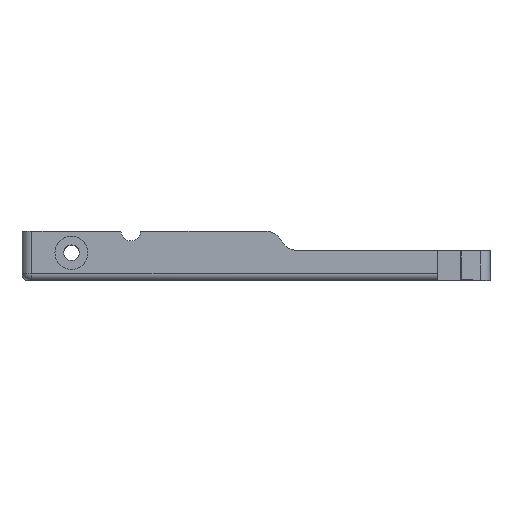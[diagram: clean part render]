
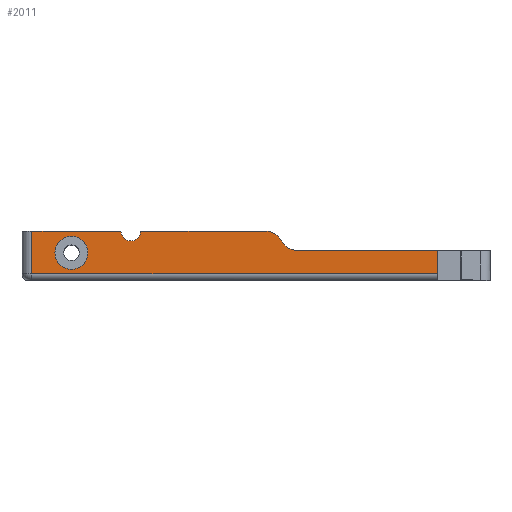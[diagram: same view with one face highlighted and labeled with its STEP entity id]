
A CAD part, top view. The second image highlights one B-rep face of the part: STEP entity #2011.
In plain terms, the highlighted planar face has unit normal (0, 0, 1).
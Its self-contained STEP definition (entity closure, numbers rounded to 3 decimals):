
#13 = VERTEX_POINT ( 'NONE', #432 ) ;
#75 = LINE ( 'NONE', #3900, #3158 ) ;
#153 = VERTEX_POINT ( 'NONE', #321 ) ;
#234 = CARTESIAN_POINT ( 'NONE',  ( -25.651, 4.2, 20.817 ) ) ;
#321 = CARTESIAN_POINT ( 'NONE',  ( -31.651, 1., 20.817 ) ) ;
#352 = EDGE_LOOP ( 'NONE', ( #981, #4034, #2841, #2585, #966, #2641, #2122, #1133, #678 ) ) ;
#362 = VERTEX_POINT ( 'NONE', #1739 ) ;
#430 = LINE ( 'NONE', #3802, #2029 ) ;
#432 = CARTESIAN_POINT ( 'NONE',  ( -23.151, 4.2, 20.817 ) ) ;
#480 = EDGE_CURVE ( 'NONE', #2147, #13, #3694, .T. ) ;
#570 = CARTESIAN_POINT ( 'NONE',  ( 6.249, 6., 20.817 ) ) ;
#599 = ORIENTED_EDGE ( 'NONE', *, *, #480, .F. ) ;
#663 = VERTEX_POINT ( 'NONE', #1589 ) ;
#678 = ORIENTED_EDGE ( 'NONE', *, *, #703, .F. ) ;
#703 = EDGE_CURVE ( 'NONE', #663, #735, #765, .T. ) ;
#735 = VERTEX_POINT ( 'NONE', #1563 ) ;
#765 = LINE ( 'NONE', #815, #1966 ) ;
#779 = CIRCLE ( 'NONE', #4810, 3.003 ) ;
#801 = CARTESIAN_POINT ( 'NONE',  ( 8.849, 7.503, 20.817 ) ) ;
#815 = CARTESIAN_POINT ( 'NONE',  ( 29.849, 7.5, 20.817 ) ) ;
#853 = CIRCLE ( 'NONE', #4254, 1.5 ) ;
#882 = VERTEX_POINT ( 'NONE', #3493 ) ;
#966 = ORIENTED_EDGE ( 'NONE', *, *, #3491, .T. ) ;
#981 = ORIENTED_EDGE ( 'NONE', *, *, #4423, .T. ) ;
#1009 = DIRECTION ( 'NONE',  ( 0., 0., 1. ) ) ;
#1054 = EDGE_CURVE ( 'NONE', #882, #1196, #430, .T. ) ;
#1087 = VECTOR ( 'NONE', #1429, 1000. ) ;
#1110 = CARTESIAN_POINT ( 'NONE',  ( -31.651, 7.5, 20.817 ) ) ;
#1133 = ORIENTED_EDGE ( 'NONE', *, *, #2468, .T. ) ;
#1137 = EDGE_CURVE ( 'NONE', #2020, #3226, #1160, .T. ) ;
#1160 = CIRCLE ( 'NONE', #3220, 3.003 ) ;
#1196 = VERTEX_POINT ( 'NONE', #3929 ) ;
#1227 = DIRECTION ( 'NONE',  ( 1., 0., 0. ) ) ;
#1231 = DIRECTION ( 'NONE',  ( 1., 0., 0. ) ) ;
#1337 = DIRECTION ( 'NONE',  ( 0., 0., -1. ) ) ;
#1429 = DIRECTION ( 'NONE',  ( 0., -1., 0. ) ) ;
#1563 = CARTESIAN_POINT ( 'NONE',  ( 29.849, 1., 20.817 ) ) ;
#1589 = CARTESIAN_POINT ( 'NONE',  ( 29.849, 4.5, 20.817 ) ) ;
#1666 = DIRECTION ( 'NONE',  ( 1., 0., 0. ) ) ;
#1739 = CARTESIAN_POINT ( 'NONE',  ( -15.151, 7.5, 20.817 ) ) ;
#1755 = CARTESIAN_POINT ( 'NONE',  ( -28.151, 4.2, 20.817 ) ) ;
#1818 = CARTESIAN_POINT ( 'NONE',  ( 29.849, 4.5, 20.817 ) ) ;
#1855 = VERTEX_POINT ( 'NONE', #3792 ) ;
#1934 = EDGE_LOOP ( 'NONE', ( #4829, #599 ) ) ;
#1966 = VECTOR ( 'NONE', #2258, 1000. ) ;
#1991 = DIRECTION ( 'NONE',  ( -1., 0., 0. ) ) ;
#2011 = ADVANCED_FACE ( 'NONE', ( #2388, #3890 ), #3223, .F. ) ;
#2020 = VERTEX_POINT ( 'NONE', #2102 ) ;
#2029 = VECTOR ( 'NONE', #1231, 1000. ) ;
#2102 = CARTESIAN_POINT ( 'NONE',  ( 8.849, 4.5, 20.817 ) ) ;
#2122 = ORIENTED_EDGE ( 'NONE', *, *, #3791, .T. ) ;
#2147 = VERTEX_POINT ( 'NONE', #1755 ) ;
#2258 = DIRECTION ( 'NONE',  ( 0., -1., 0. ) ) ;
#2388 = FACE_BOUND ( 'NONE', #1934, .T. ) ;
#2417 = DIRECTION ( 'NONE',  ( 0., 0., 1. ) ) ;
#2467 = CARTESIAN_POINT ( 'NONE',  ( 3.649, 4.497, 20.817 ) ) ;
#2468 = EDGE_CURVE ( 'NONE', #153, #735, #3646, .T. ) ;
#2585 = ORIENTED_EDGE ( 'NONE', *, *, #3094, .F. ) ;
#2641 = ORIENTED_EDGE ( 'NONE', *, *, #1054, .F. ) ;
#2735 = DIRECTION ( 'NONE',  ( 0., 0., -1. ) ) ;
#2841 = ORIENTED_EDGE ( 'NONE', *, *, #3282, .T. ) ;
#3011 = DIRECTION ( 'NONE',  ( -1., 0., 0. ) ) ;
#3094 = EDGE_CURVE ( 'NONE', #362, #1855, #75, .T. ) ;
#3158 = VECTOR ( 'NONE', #1227, 1000. ) ;
#3220 = AXIS2_PLACEMENT_3D ( 'NONE', #801, #3508, #3460 ) ;
#3223 = PLANE ( 'NONE',  #3572 ) ;
#3226 = VERTEX_POINT ( 'NONE', #570 ) ;
#3282 = EDGE_CURVE ( 'NONE', #3226, #1855, #779, .T. ) ;
#3460 = DIRECTION ( 'NONE',  ( -1., 0., 0. ) ) ;
#3491 = EDGE_CURVE ( 'NONE', #362, #1196, #853, .T. ) ;
#3493 = CARTESIAN_POINT ( 'NONE',  ( -31.651, 7.5, 20.817 ) ) ;
#3508 = DIRECTION ( 'NONE',  ( 0., 0., -1. ) ) ;
#3524 = CARTESIAN_POINT ( 'NONE',  ( -25.651, 4.2, 20.817 ) ) ;
#3572 = AXIS2_PLACEMENT_3D ( 'NONE', #4724, #1337, #4342 ) ;
#3646 = LINE ( 'NONE', #4436, #4608 ) ;
#3694 = CIRCLE ( 'NONE', #4728, 2.5 ) ;
#3791 = EDGE_CURVE ( 'NONE', #882, #153, #4872, .T. ) ;
#3792 = CARTESIAN_POINT ( 'NONE',  ( 3.649, 7.5, 20.817 ) ) ;
#3802 = CARTESIAN_POINT ( 'NONE',  ( 29.849, 7.5, 20.817 ) ) ;
#3890 = FACE_OUTER_BOUND ( 'NONE', #352, .T. ) ;
#3900 = CARTESIAN_POINT ( 'NONE',  ( 29.849, 7.5, 20.817 ) ) ;
#3929 = CARTESIAN_POINT ( 'NONE',  ( -18.151, 7.5, 20.817 ) ) ;
#4034 = ORIENTED_EDGE ( 'NONE', *, *, #1137, .T. ) ;
#4038 = DIRECTION ( 'NONE',  ( -1., 0., 0. ) ) ;
#4063 = CIRCLE ( 'NONE', #4296, 2.5 ) ;
#4070 = VECTOR ( 'NONE', #3011, 1000. ) ;
#4254 = AXIS2_PLACEMENT_3D ( 'NONE', #4585, #2735, #1991 ) ;
#4296 = AXIS2_PLACEMENT_3D ( 'NONE', #234, #1009, #4707 ) ;
#4342 = DIRECTION ( 'NONE',  ( -1., 0., 0. ) ) ;
#4423 = EDGE_CURVE ( 'NONE', #663, #2020, #4459, .T. ) ;
#4426 = DIRECTION ( 'NONE',  ( 0., 0., 1. ) ) ;
#4436 = CARTESIAN_POINT ( 'NONE',  ( 29.849, 1., 20.817 ) ) ;
#4459 = LINE ( 'NONE', #1818, #4070 ) ;
#4585 = CARTESIAN_POINT ( 'NONE',  ( -16.651, 7.5, 20.817 ) ) ;
#4608 = VECTOR ( 'NONE', #4815, 1000. ) ;
#4679 = EDGE_CURVE ( 'NONE', #13, #2147, #4063, .T. ) ;
#4707 = DIRECTION ( 'NONE',  ( 1., 0., 0. ) ) ;
#4724 = CARTESIAN_POINT ( 'NONE',  ( 29.849, 7.5, 20.817 ) ) ;
#4728 = AXIS2_PLACEMENT_3D ( 'NONE', #3524, #2417, #1666 ) ;
#4810 = AXIS2_PLACEMENT_3D ( 'NONE', #2467, #4426, #4038 ) ;
#4815 = DIRECTION ( 'NONE',  ( 1., 0., 0. ) ) ;
#4829 = ORIENTED_EDGE ( 'NONE', *, *, #4679, .F. ) ;
#4872 = LINE ( 'NONE', #1110, #1087 ) ;
